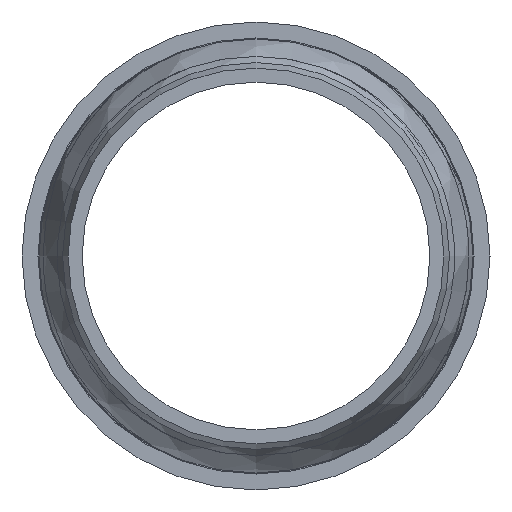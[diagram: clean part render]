
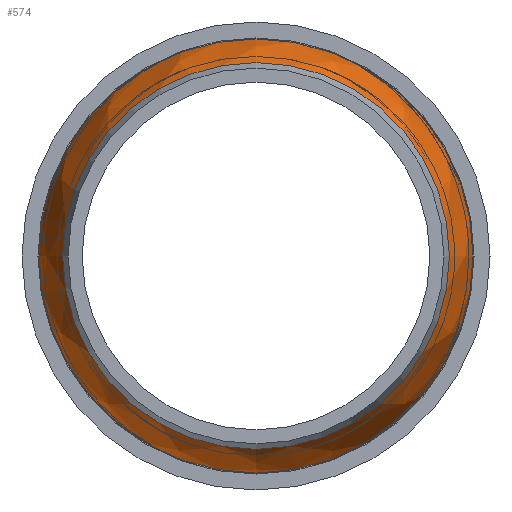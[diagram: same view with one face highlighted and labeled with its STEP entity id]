
A CAD part, left-side view. The second image highlights one B-rep face of the part: STEP entity #574.
In plain terms, the highlighted free-form (B-spline) face has degree [2, 2] with [3, 9] control points.
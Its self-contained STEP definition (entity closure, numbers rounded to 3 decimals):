
#12=(
BOUNDED_CURVE()
B_SPLINE_CURVE(2,(#2121,#2122,#2123),.UNSPECIFIED.,.F.,.F.)
B_SPLINE_CURVE_WITH_KNOTS((3,3),(0.097,0.624),
 .UNSPECIFIED.)
CURVE()
GEOMETRIC_REPRESENTATION_ITEM()
RATIONAL_B_SPLINE_CURVE((1.,0.965,1.))
REPRESENTATION_ITEM('')
);
#14=(
BOUNDED_SURFACE()
B_SPLINE_SURFACE(2,2,((#2094,#2095,#2096,#2097,#2098,#2099,#2100,#2101,
#2102),(#2103,#2104,#2105,#2106,#2107,#2108,#2109,#2110,#2111),(#2112,#2113,
#2114,#2115,#2116,#2117,#2118,#2119,#2120)),.UNSPECIFIED.,.F.,.T.,.F.)
B_SPLINE_SURFACE_WITH_KNOTS((3,3),(3,2,2,2,3),(-0.624,-0.097),
(-3.142,-1.571,0.,1.571,3.142),
 .UNSPECIFIED.)
GEOMETRIC_REPRESENTATION_ITEM()
RATIONAL_B_SPLINE_SURFACE(((1.,0.707,1.,0.707,1.,
0.707,1.,0.707,1.),(0.965,0.683,
0.965,0.683,0.965,0.683,
0.965,0.683,0.965),(1.,0.707,
1.,0.707,1.,0.707,1.,0.707,1.)))
REPRESENTATION_ITEM('')
SURFACE()
);
#147=FACE_OUTER_BOUND('',#206,.T.);
#206=EDGE_LOOP('',(#480,#481,#482,#483,#484,#485,#486));
#234=CIRCLE('',#616,42.2);
#235=CIRCLE('',#617,42.2);
#236=CIRCLE('',#618,42.2);
#242=CIRCLE('',#637,37.6);
#243=CIRCLE('',#638,37.6);
#278=VERTEX_POINT('',#1437);
#287=VERTEX_POINT('',#1829);
#288=VERTEX_POINT('',#1830);
#299=VERTEX_POINT('',#2090);
#300=VERTEX_POINT('',#2091);
#349=EDGE_CURVE('',#287,#288,#234,.T.);
#350=EDGE_CURVE('',#288,#278,#235,.T.);
#351=EDGE_CURVE('',#278,#287,#236,.T.);
#363=EDGE_CURVE('',#299,#300,#242,.T.);
#364=EDGE_CURVE('',#300,#299,#243,.T.);
#365=EDGE_CURVE('',#288,#300,#12,.T.);
#480=ORIENTED_EDGE('',*,*,#349,.F.);
#481=ORIENTED_EDGE('',*,*,#351,.F.);
#482=ORIENTED_EDGE('',*,*,#350,.F.);
#483=ORIENTED_EDGE('',*,*,#365,.T.);
#484=ORIENTED_EDGE('',*,*,#364,.T.);
#485=ORIENTED_EDGE('',*,*,#363,.T.);
#486=ORIENTED_EDGE('',*,*,#365,.F.);
#574=ADVANCED_FACE('',(#147),#14,.F.);
#616=AXIS2_PLACEMENT_3D('',#1831,#712,#713);
#617=AXIS2_PLACEMENT_3D('',#1832,#714,#715);
#618=AXIS2_PLACEMENT_3D('',#1833,#716,#717);
#637=AXIS2_PLACEMENT_3D('',#2092,#754,#755);
#638=AXIS2_PLACEMENT_3D('',#2093,#756,#757);
#712=DIRECTION('center_axis',(1.,0.,0.));
#713=DIRECTION('ref_axis',(0.,0.,
1.));
#714=DIRECTION('center_axis',(1.,0.,0.));
#715=DIRECTION('ref_axis',(0.,0.,
1.));
#716=DIRECTION('center_axis',(1.,0.,0.));
#717=DIRECTION('ref_axis',(0.,0.,
1.));
#754=DIRECTION('center_axis',(1.,0.,0.));
#755=DIRECTION('ref_axis',(0.,0.,
1.));
#756=DIRECTION('center_axis',(1.,0.,0.));
#757=DIRECTION('ref_axis',(0.,0.,
1.));
#1437=CARTESIAN_POINT('',(1508.8,42.2,0.));
#1829=CARTESIAN_POINT('',(1508.8,-42.2,0.));
#1830=CARTESIAN_POINT('',(1508.8,0.,-42.2));
#1831=CARTESIAN_POINT('Origin',(1508.8,0.,
0.));
#1832=CARTESIAN_POINT('Origin',(1508.8,0.,
0.));
#1833=CARTESIAN_POINT('Origin',(1508.8,0.,
0.));
#2090=CARTESIAN_POINT('',(1496.6,-37.6,0.));
#2091=CARTESIAN_POINT('',(1496.6,0.,-37.6));
#2092=CARTESIAN_POINT('Origin',(1496.6,0.,
0.));
#2093=CARTESIAN_POINT('Origin',(1496.6,0.,
0.));
#2094=CARTESIAN_POINT('Ctrl Pts',(1496.6,0.,
-37.6));
#2095=CARTESIAN_POINT('Ctrl Pts',(1496.6,37.6,-37.6));
#2096=CARTESIAN_POINT('Ctrl Pts',(1496.6,37.6,0.));
#2097=CARTESIAN_POINT('Ctrl Pts',(1496.6,37.6,37.6));
#2098=CARTESIAN_POINT('Ctrl Pts',(1496.6,0.,
37.6));
#2099=CARTESIAN_POINT('Ctrl Pts',(1496.6,-37.6,37.6));
#2100=CARTESIAN_POINT('Ctrl Pts',(1496.6,-37.6,0.));
#2101=CARTESIAN_POINT('Ctrl Pts',(1496.6,-37.6,-37.6));
#2102=CARTESIAN_POINT('Ctrl Pts',(1496.6,0.,
-37.6));
#2103=CARTESIAN_POINT('Ctrl Pts',(1502.079,0.,
-41.548));
#2104=CARTESIAN_POINT('Ctrl Pts',(1502.079,41.548,-41.548));
#2105=CARTESIAN_POINT('Ctrl Pts',(1502.079,41.548,0.));
#2106=CARTESIAN_POINT('Ctrl Pts',(1502.079,41.548,41.548));
#2107=CARTESIAN_POINT('Ctrl Pts',(1502.079,0.,
41.548));
#2108=CARTESIAN_POINT('Ctrl Pts',(1502.079,-41.548,41.548));
#2109=CARTESIAN_POINT('Ctrl Pts',(1502.079,-41.548,0.));
#2110=CARTESIAN_POINT('Ctrl Pts',(1502.079,-41.548,-41.548));
#2111=CARTESIAN_POINT('Ctrl Pts',(1502.079,0.,
-41.548));
#2112=CARTESIAN_POINT('Ctrl Pts',(1508.8,0.,
-42.2));
#2113=CARTESIAN_POINT('Ctrl Pts',(1508.8,42.2,-42.2));
#2114=CARTESIAN_POINT('Ctrl Pts',(1508.8,42.2,0.));
#2115=CARTESIAN_POINT('Ctrl Pts',(1508.8,42.2,42.2));
#2116=CARTESIAN_POINT('Ctrl Pts',(1508.8,0.,
42.2));
#2117=CARTESIAN_POINT('Ctrl Pts',(1508.8,-42.2,42.2));
#2118=CARTESIAN_POINT('Ctrl Pts',(1508.8,-42.2,0.));
#2119=CARTESIAN_POINT('Ctrl Pts',(1508.8,-42.2,-42.2));
#2120=CARTESIAN_POINT('Ctrl Pts',(1508.8,0.,
-42.2));
#2121=CARTESIAN_POINT('Ctrl Pts',(1508.8,0.,
-42.2));
#2122=CARTESIAN_POINT('Ctrl Pts',(1502.079,0.,
-41.548));
#2123=CARTESIAN_POINT('Ctrl Pts',(1496.6,0.,
-37.6));
